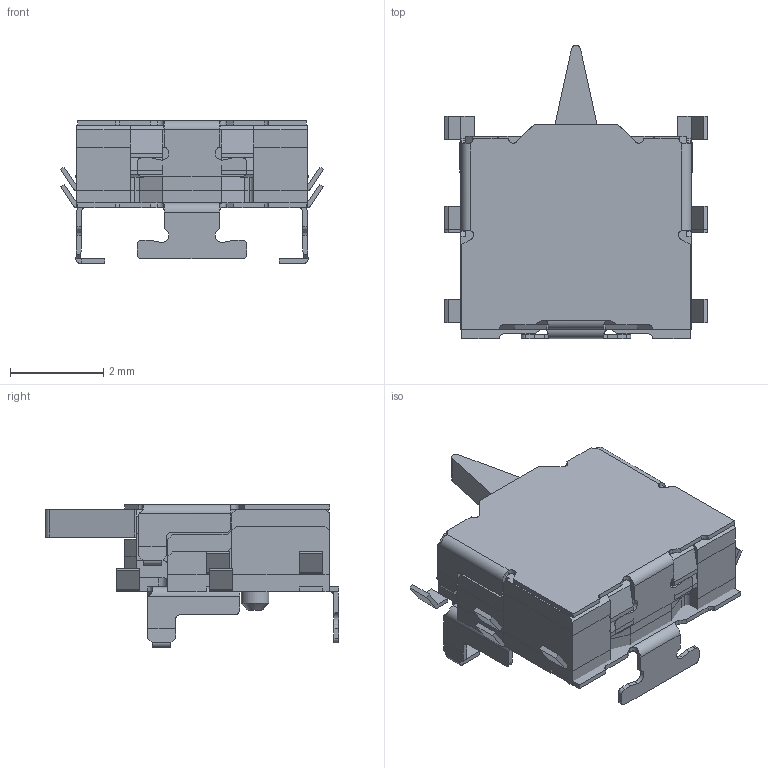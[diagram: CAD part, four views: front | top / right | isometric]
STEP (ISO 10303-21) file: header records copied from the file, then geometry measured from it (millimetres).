
FILE_DESCRIPTION( ( 'Unknown' ), '1' );
FILE_NAME( '//Ntcw022/edgesv/fsw/ユーザ提出用データ/ﾃﾞｨﾃｸﾀｰｽｲｯﾁ/ESE23/ese23j101-std-sk.stp', 'Unknown', ( 'Unknown' ), ( 'Unknown' ), 'PSStep 10.0', 'Unknown', ' ' );
FILE_SCHEMA( ( 'AUTOMOTIVE_DESIGN { 1 0 10303 214 1 1 1 1 }' ) );
Length unit declared in the file: millimetre
Products named in the file (8): Assem1; sw-3d-131-e23cs1-boss-pc-roo; sw-3d-131-e23ts1-j-sk; sw-3d-e23lv4-sk; sw-3d-131-e23fm2-sk
Bounding box: 5.65 x 6.29 x 3.07 mm (x, y, z)
Volume: 61.9 mm3; surface area: 271 mm2
Topology: 14 solids, 14 shells, 490 faces, 1338 edges, 882 vertices
Faces by surface type: plane 368, cylinder 116, cone 6
Full cylindrical faces by diameter (mm): 0.4 x2, 0.425 x2, 0.6 x4
Entity records: 9830 total; most frequent: CARTESIAN_POINT 1501, ORIENTED_EDGE 1322, DIRECTION 1255, EDGE_CURVE 661, LINE 523, VECTOR 523, VERTEX_POINT 440, AXIS2_PLACEMENT_3D 366
